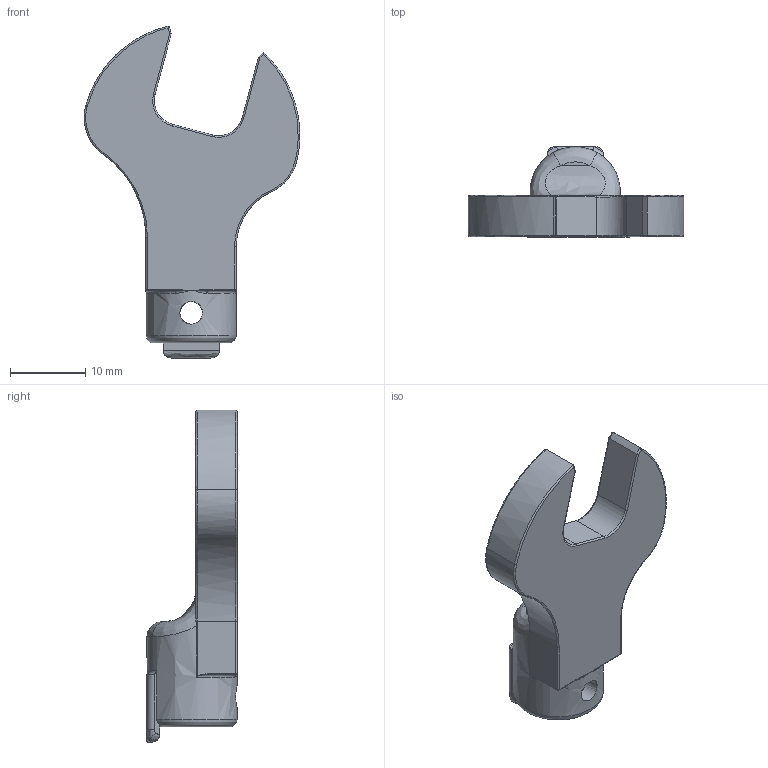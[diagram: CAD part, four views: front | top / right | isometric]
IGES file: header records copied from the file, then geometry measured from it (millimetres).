
Global section: file name: SH8DX12; native system: Autodesk Inventor 2016; preprocessor: unknown; author: Q600; date: 20151029.194143; units: millimetre
Bounding box: 28.65 x 12 x 44.13 mm (x, y, z)
Volume: 3606.3 mm3; surface area: 2432 mm2
Topology: 1 solids, 1 shells, 109 faces, 278 edges, 164 vertices
Faces by surface type: bspline 109
